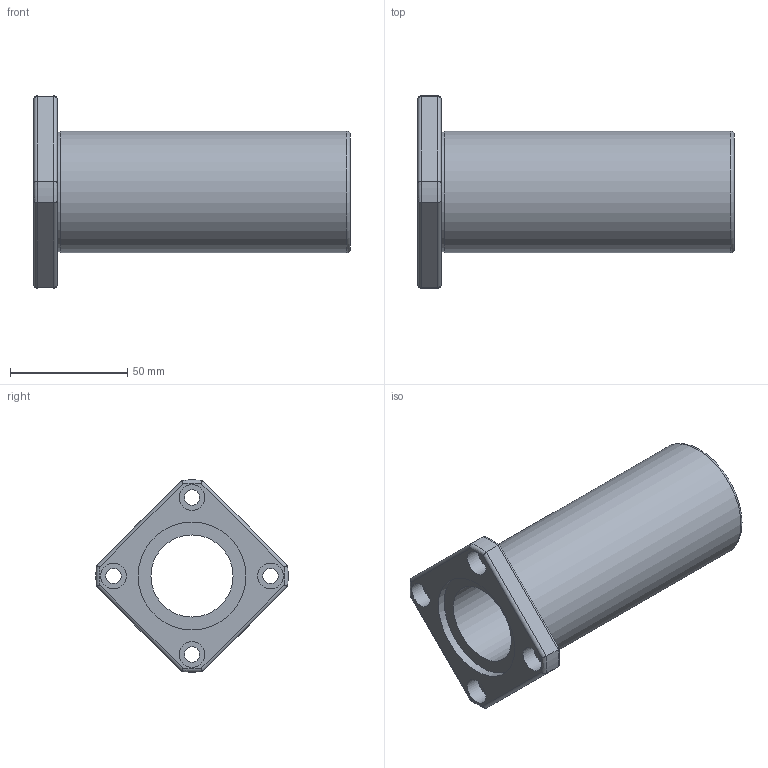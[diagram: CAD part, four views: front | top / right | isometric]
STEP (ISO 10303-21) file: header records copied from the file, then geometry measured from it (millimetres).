
FILE_DESCRIPTION( ( 'Unknown' ), '1' );
FILE_NAME( 'D:/累诀/己绕皋墨飘肺葱胶/11-04-06_档搁累己/01_府聪绢何教/LMK L/LMK 35L.stp', 'Unknown', ( 'Unknown' ), ( 'Unknown' ), 'PSStep 11.0', 'Unknown', ' ' );
FILE_SCHEMA( ( 'AUTOMOTIVE_DESIGN { 1 0 10303 214 1 1 1 1 }' ) );
Length unit declared in the file: millimetre
Products named in the file (1): 1
Bounding box: 135 x 81.97 x 81.94 mm (x, y, z)
Volume: 167509.6 mm3; surface area: 44688.7 mm2
Topology: 1 solids, 1 shells, 48 faces, 105 edges, 67 vertices
Faces by surface type: cylinder 25, plane 14, torus 9
Full cylindrical faces by diameter (mm): 6.6 x4, 11 x4, 35 x1, 46 x2, 51 x1, 52 x1
Entity records: 1782 total; most frequent: CARTESIAN_POINT 375, DIRECTION 216, ORIENTED_EDGE 174, AXIS2_PLACEMENT_3D 96, EDGE_CURVE 87, EDGE_LOOP 80, VERTEX_POINT 63, FACE_OUTER_BOUND 62
